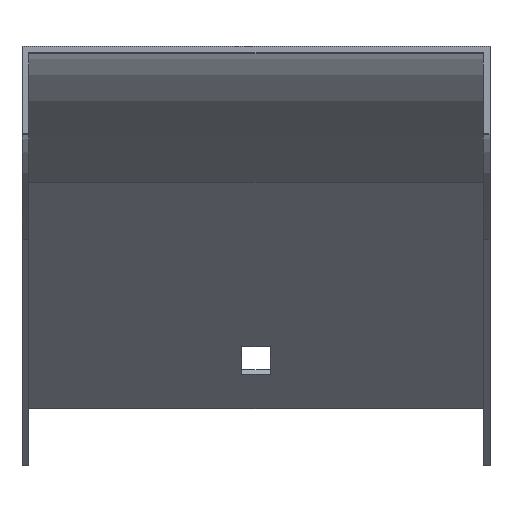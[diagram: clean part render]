
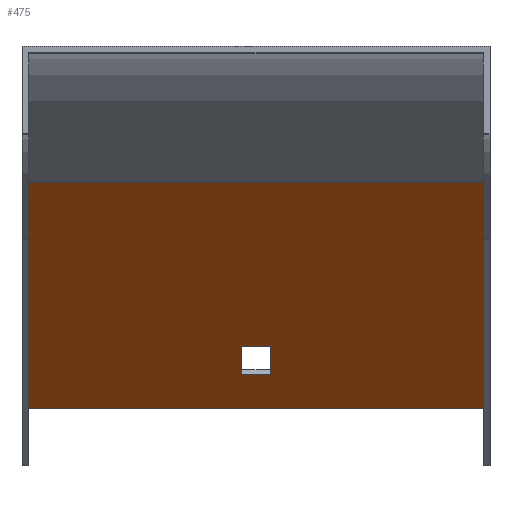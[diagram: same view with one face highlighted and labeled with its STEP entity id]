
A CAD part, top view. The second image highlights one B-rep face of the part: STEP entity #475.
In plain terms, the highlighted planar face has unit normal (0, -0.707, 0.707).
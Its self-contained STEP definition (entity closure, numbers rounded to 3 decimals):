
#8 = CARTESIAN_POINT ( 'NONE',  ( 52., -82.479, -195.5 ) ) ;
#11 = DIRECTION ( 'NONE',  ( 0., 0.707, 0.707 ) ) ;
#26 = CARTESIAN_POINT ( 'NONE',  ( 3.25, -30.789, -143.811 ) ) ;
#30 = EDGE_LOOP ( 'NONE', ( #352, #545, #783, #777 ) ) ;
#41 = VERTEX_POINT ( 'NONE', #192 ) ;
#64 = VECTOR ( 'NONE', #496, 1000. ) ;
#68 = CARTESIAN_POINT ( 'NONE',  ( 53.5, -68.337, -181.358 ) ) ;
#80 = LINE ( 'NONE', #26, #774 ) ;
#82 = VECTOR ( 'NONE', #11, 1000. ) ;
#87 = VERTEX_POINT ( 'NONE', #393 ) ;
#90 = DIRECTION ( 'NONE',  ( 0., 0.707, 0.707 ) ) ;
#105 = DIRECTION ( 'NONE',  ( -1., 0., 0. ) ) ;
#107 = EDGE_CURVE ( 'NONE', #434, #41, #335, .T. ) ;
#152 = VERTEX_POINT ( 'NONE', #8 ) ;
#154 = DIRECTION ( 'NONE',  ( 0., 0.707, 0.707 ) ) ;
#176 = LINE ( 'NONE', #648, #782 ) ;
#192 = CARTESIAN_POINT ( 'NONE',  ( 3.25, -68.337, -181.358 ) ) ;
#209 = ORIENTED_EDGE ( 'NONE', *, *, #107, .T. ) ;
#221 = VECTOR ( 'NONE', #154, 1000. ) ;
#247 = VERTEX_POINT ( 'NONE', #744 ) ;
#262 = EDGE_CURVE ( 'NONE', #152, #825, #491, .T. ) ;
#266 = EDGE_CURVE ( 'NONE', #41, #585, #80, .T. ) ;
#269 = EDGE_CURVE ( 'NONE', #152, #620, #748, .T. ) ;
#273 = CARTESIAN_POINT ( 'NONE',  ( -52., -30.789, -143.811 ) ) ;
#274 = FACE_OUTER_BOUND ( 'NONE', #30, .T. ) ;
#282 = EDGE_CURVE ( 'NONE', #87, #434, #828, .T. ) ;
#291 = PLANE ( 'NONE',  #846 ) ;
#310 = CARTESIAN_POINT ( 'NONE',  ( 3.25, -74.701, -187.722 ) ) ;
#326 = DIRECTION ( 'NONE',  ( 1., 0., 0. ) ) ;
#327 = EDGE_CURVE ( 'NONE', #620, #247, #343, .T. ) ;
#335 = LINE ( 'NONE', #68, #614 ) ;
#340 = EDGE_LOOP ( 'NONE', ( #756, #779, #209, #813 ) ) ;
#343 = LINE ( 'NONE', #273, #580 ) ;
#352 = ORIENTED_EDGE ( 'NONE', *, *, #327, .F. ) ;
#387 = CARTESIAN_POINT ( 'NONE',  ( -52., -82.479, -195.5 ) ) ;
#393 = CARTESIAN_POINT ( 'NONE',  ( -3.25, -74.701, -187.722 ) ) ;
#429 = LINE ( 'NONE', #441, #678 ) ;
#434 = VERTEX_POINT ( 'NONE', #659 ) ;
#441 = CARTESIAN_POINT ( 'NONE',  ( 53.5, -30.789, -143.811 ) ) ;
#442 = DIRECTION ( 'NONE',  ( -1., 0., 0. ) ) ;
#456 = EDGE_CURVE ( 'NONE', #825, #247, #429, .T. ) ;
#475 = ADVANCED_FACE ( 'NONE', ( #274, #492 ), #291, .T. ) ;
#491 = LINE ( 'NONE', #553, #221 ) ;
#492 = FACE_BOUND ( 'NONE', #340, .T. ) ;
#496 = DIRECTION ( 'NONE',  ( -1., 0., 0. ) ) ;
#545 = ORIENTED_EDGE ( 'NONE', *, *, #269, .F. ) ;
#553 = CARTESIAN_POINT ( 'NONE',  ( 52., -30.789, -143.811 ) ) ;
#563 = DIRECTION ( 'NONE',  ( 0., -0.707, 0.707 ) ) ;
#580 = VECTOR ( 'NONE', #90, 1000. ) ;
#585 = VERTEX_POINT ( 'NONE', #310 ) ;
#612 = EDGE_CURVE ( 'NONE', #585, #87, #176, .T. ) ;
#613 = CARTESIAN_POINT ( 'NONE',  ( 53.5, -82.479, -195.5 ) ) ;
#614 = VECTOR ( 'NONE', #326, 1000. ) ;
#620 = VERTEX_POINT ( 'NONE', #387 ) ;
#629 = CARTESIAN_POINT ( 'NONE',  ( 53.5, -30.789, -143.811 ) ) ;
#648 = CARTESIAN_POINT ( 'NONE',  ( 53.5, -74.701, -187.722 ) ) ;
#659 = CARTESIAN_POINT ( 'NONE',  ( -3.25, -68.337, -181.358 ) ) ;
#678 = VECTOR ( 'NONE', #105, 1000. ) ;
#744 = CARTESIAN_POINT ( 'NONE',  ( -52., -30.789, -143.811 ) ) ;
#748 = LINE ( 'NONE', #613, #64 ) ;
#753 = CARTESIAN_POINT ( 'NONE',  ( -3.25, -30.789, -143.811 ) ) ;
#756 = ORIENTED_EDGE ( 'NONE', *, *, #612, .T. ) ;
#763 = DIRECTION ( 'NONE',  ( 0., -0.707, -0.707 ) ) ;
#774 = VECTOR ( 'NONE', #815, 1000. ) ;
#777 = ORIENTED_EDGE ( 'NONE', *, *, #456, .T. ) ;
#779 = ORIENTED_EDGE ( 'NONE', *, *, #282, .T. ) ;
#782 = VECTOR ( 'NONE', #442, 1000. ) ;
#783 = ORIENTED_EDGE ( 'NONE', *, *, #262, .T. ) ;
#801 = CARTESIAN_POINT ( 'NONE',  ( 52., -30.789, -143.811 ) ) ;
#813 = ORIENTED_EDGE ( 'NONE', *, *, #266, .T. ) ;
#815 = DIRECTION ( 'NONE',  ( 0., -0.707, -0.707 ) ) ;
#825 = VERTEX_POINT ( 'NONE', #801 ) ;
#828 = LINE ( 'NONE', #753, #82 ) ;
#846 = AXIS2_PLACEMENT_3D ( 'NONE', #629, #563, #763 ) ;
